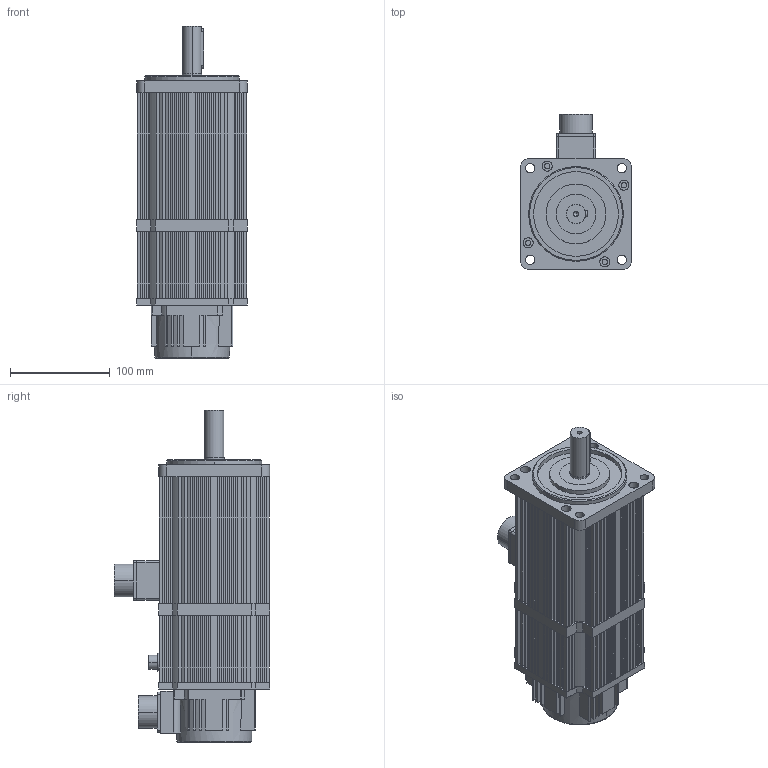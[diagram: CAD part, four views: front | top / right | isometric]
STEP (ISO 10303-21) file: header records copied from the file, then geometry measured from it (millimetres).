
FILE_DESCRIPTION (( 'STEP AP203' ), '1' );
FILE_NAME ('ASMJ-11-1530B-H342.STEP', '2024-06-03T09:39:24', ( 'Admin' ), ( '' ), 'SwSTEP 2.0', 'SolidWorks 2018', '' );
FILE_SCHEMA (( 'CONFIG_CONTROL_DESIGN' ));
Length unit declared in the file: millimetre
Products named in the file (1): ASMJ-11-1530B-H342
Bounding box: 111.2 x 155.9 x 333 mm (x, y, z)
Volume: 914718.9 mm3; surface area: 437959.9 mm2
Topology: 13 solids, 13 shells, 1185 faces, 3279 edges, 2114 vertices
Faces by surface type: plane 709, cylinder 389, bspline 44, cone 43
Entity records: 39269 total; most frequent: CARTESIAN_POINT 8717, ORIENTED_EDGE 6398, DIRECTION 6253, EDGE_CURVE 3199, VECTOR 2237, LINE 2237, VERTEX_POINT 2114, AXIS2_PLACEMENT_3D 2008
